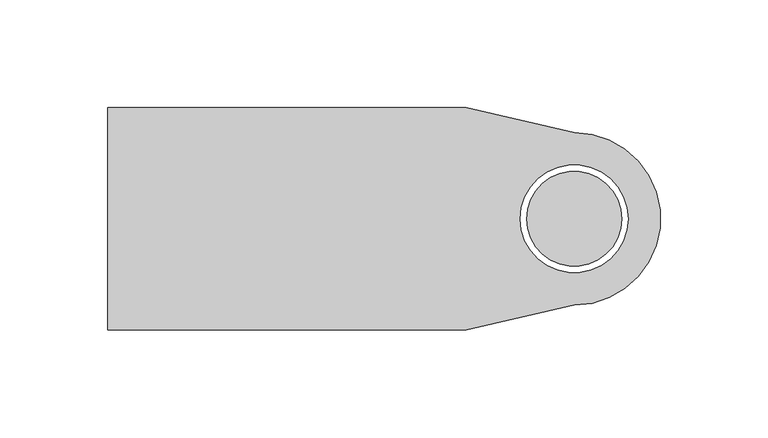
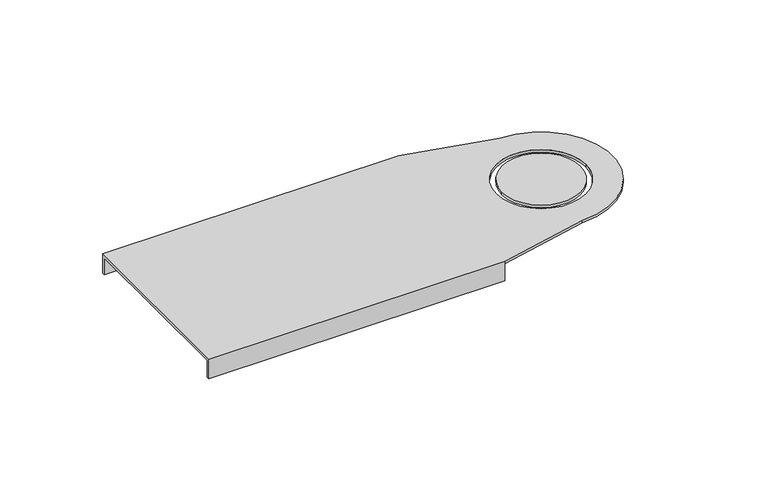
"""IFC4 building model written with IfcOpenShell, lengths in millimetres: cable carrier fitting geometry, BAKS_LDLS_BEND_Articulated connector for LLDS_LGSU : LGSUP_H100."""

from ifc_helpers import new_model, si_unit, frame, origin, place, context, project, spatial, polyline, circle_curve, source, transform, mapped, element, save
from ifc_brep_helpers import plane_surface, cylinder_surface, revolved_surface, advanced_brep


def cable_carrier_fitting_4c2027fa(model_context):
    return source(origin(), model_context, "Body", "AdvancedBrep", [
        advanced_brep(
        [(-216.0, 51.5, 1.5), (-216.0, -51.5, 1.5), (-50.0, -51.5, 1.5), (0.0, -40.0, 1.5), (0.0, 40.0, 1.5), (-50.0, 51.5, 1.5), (25.0, 0.0, 1.5), (-25.0, 0.0, 1.5), (-50.0, -51.5, 0.0), (-50.0, -50.0, 0.0), (-216.0, -50.0, 0.0), (-216.0, 50.0, 0.0), (-50.0, 50.0, 0.0), (-50.0, 51.5, 0.0), (0.0, 40.0, 0.0), (0.0, -40.0, 0.0), (-25.0, 0.0, 0.0), (25.0, 0.0, 0.0), (-50.0, 51.5, -10.0), (-216.0, 51.5, -10.0), (-216.0, -51.5, -10.0), (-50.0, -51.5, -10.0), (-216.0, 50.0, -10.0), (-216.0, -50.0, -10.0), (-50.0, -50.0, -10.0), (-50.0, 50.0, -10.0)],
        [
            (0, 1),
            (1, 2),
            (2, 3),
            (3, 4, circle_curve(frame((0.0, 0.0, 1.5), z_axis=(0.0, 0.0, 1.0), x_axis=(-1.0, 0.0, 0.0)), 40.0)),
            (4, 5),
            (5, 0),
            (6, 7, circle_curve(frame((0.0, 0.0, 1.5), z_axis=(0.0, 0.0, -1.0), x_axis=(-1.0, 0.0, 0.0)), 25.0)),
            (7, 6, circle_curve(frame((0.0, 0.0, 1.5), z_axis=(0.0, 0.0, -1.0), x_axis=(-1.0, 0.0, 0.0)), 25.0)),
            (8, 9),
            (9, 10),
            (10, 11),
            (11, 12),
            (12, 13),
            (13, 14),
            (14, 15, circle_curve(frame((0.0, 0.0, 0.0), z_axis=(0.0, 0.0, -1.0), x_axis=(-1.0, 0.0, 0.0)), 40.0)),
            (15, 8),
            (16, 17, circle_curve(frame((0.0, 0.0, 0.0), z_axis=(0.0, 0.0, 1.0), x_axis=(-1.0, 0.0, 0.0)), 25.0)),
            (17, 16, circle_curve(frame((0.0, 0.0, 0.0), z_axis=(0.0, 0.0, 1.0), x_axis=(-1.0, 0.0, 0.0)), 25.0)),
            (5, 13),
            (13, 18),
            (18, 19),
            (19, 0),
            (1, 20),
            (20, 21),
            (21, 8),
            (8, 2),
            (19, 22),
            (22, 11),
            (10, 23),
            (23, 20),
            (7, 16),
            (17, 6),
            (4, 14),
            (3, 15),
            (23, 24),
            (24, 21),
            (9, 24),
            (18, 25),
            (25, 22),
            (12, 25),
        ],
        [
            plane_surface(frame((-50.0, 51.5, 1.5), z_axis=(0.0, 0.0, 1.0), x_axis=(1.0, 0.0, 0.0))),
            plane_surface(frame((-50.0, 51.5, 0.0), z_axis=(0.0, 0.0, -1.0), x_axis=(-1.0, 0.0, 0.0))),
            plane_surface(frame((-216.0, 51.5, 1.5), z_axis=(0.0, 1.0, 0.0), x_axis=(0.0, 0.0, -1.0))),
            plane_surface(frame((-50.0, -51.5, 1.5), z_axis=(0.0, -1.0, 0.0), x_axis=(0.0, 0.0, -1.0))),
            plane_surface(frame((-216.0, -51.5, 1.5), z_axis=(-1.0, 0.0, 0.0), x_axis=(0.0, 0.0, -1.0))),
            revolved_surface(polyline([(-25.0, 0.0, 1.5), (-25.0, 0.0, 0.0)]), (0.0, 0.0, 0.0), (0.0, 0.0, 1.0)),
            plane_surface(frame((-50.0, 51.5, 1.5), z_axis=(0.22414769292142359, 0.9745551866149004, 0.0), x_axis=(0.0, 0.0, -1.0))),
            cylinder_surface(frame((0.0, 0.0, 0.0), z_axis=(0.0, 0.0, 1.0), x_axis=(-1.0, 0.0, 0.0)), 40.0),
            plane_surface(frame((0.0, -40.0, 1.5), z_axis=(0.2241476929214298, -0.9745551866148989, 0.0), x_axis=(0.0, 0.0, -1.0))),
            plane_surface(frame((-50.0, -50.0, -10.0), z_axis=(0.0, 0.0, -1.0), x_axis=(-1.0, 0.0, 0.0))),
            plane_surface(frame((-216.0, -50.0, 0.0), z_axis=(0.0, 1.0, 0.0), x_axis=(0.0, 0.0, -1.0))),
            plane_surface(frame((-50.0, -50.0, 0.0), z_axis=(1.0, 0.0, 0.0), x_axis=(0.0, 0.0, -1.0))),
            plane_surface(frame((-50.0, 51.5, -10.0), z_axis=(0.0, 0.0, -1.0), x_axis=(-1.0, 0.0, 0.0))),
            plane_surface(frame((-50.0, 51.5, 0.0), z_axis=(1.0, 0.0, 0.0), x_axis=(0.0, 0.0, -1.0))),
            plane_surface(frame((-50.0, 50.0, 0.0), z_axis=(0.0, -1.0, 0.0), x_axis=(0.0, 0.0, -1.0))),
        ],
        [
            (0, [[1, 2, 3, 4, 5, 6], [7, 8]]),
            (1, [[9, 10, 11, 12, 13, 14, 15, 16], [17, 18]]),
            (2, [[19, 20, 21, 22, -6]]),
            (3, [[23, 24, 25, 26, -2]]),
            (4, [[27, 28, -11, 29, 30, -23, -1, -22]]),
            (5, [[-8, 31, -18, 32]]),
            (5, [[-17, -31, -7, -32]]),
            (6, [[33, -14, -19, -5]]),
            (7, [[34, -15, -33, -4]]),
            (8, [[-26, -16, -34, -3]]),
            (9, [[35, 36, -24, -30]]),
            (10, [[-29, -10, 37, -35]]),
            (11, [[-37, -9, -25, -36]]),
            (12, [[-21, 38, 39, -27]]),
            (13, [[-20, -13, 40, -38]]),
            (14, [[-40, -12, -28, -39]]),
        ],
    ),
        advanced_brep(
        [(22.0, 0.0, 1.5), (-22.0, 0.0, 1.5), (-22.0, 0.0, 0.0), (22.0, 0.0, 0.0)],
        [
            (0, 1, circle_curve(frame((0.0, 0.0, 1.5), z_axis=(0.0, 0.0, 1.0), x_axis=(-1.0, 0.0, 0.0)), 22.0)),
            (1, 0, circle_curve(frame((0.0, 0.0, 1.5), z_axis=(0.0, 0.0, 1.0), x_axis=(-1.0, 0.0, 0.0)), 22.0)),
            (2, 3, circle_curve(frame((0.0, 0.0, 0.0), z_axis=(0.0, 0.0, -1.0), x_axis=(-1.0, 0.0, 0.0)), 22.0)),
            (3, 2, circle_curve(frame((0.0, 0.0, 0.0), z_axis=(0.0, 0.0, -1.0), x_axis=(-1.0, 0.0, 0.0)), 22.0)),
            (1, 2),
            (3, 0),
        ],
        [
            plane_surface(frame((-50.0, 51.5, 1.5), z_axis=(0.0, 0.0, 1.0), x_axis=(1.0, 0.0, 0.0))),
            plane_surface(frame((-50.0, 51.5, 0.0), z_axis=(0.0, 0.0, -1.0), x_axis=(-1.0, 0.0, 0.0))),
            cylinder_surface(frame((0.0, 0.0, 0.0), z_axis=(0.0, 0.0, -1.0), x_axis=(-1.0, 0.0, 0.0)), 22.0),
        ],
        [
            (0, [[1, 2]]),
            (1, [[3, 4]]),
            (2, [[-2, 5, -4, 6]]),
            (2, [[-3, -5, -1, -6]]),
        ],
    ),
    ])


if __name__ == "__main__":
    model = new_model("IFC4")
    model_context = context("Model", 3, world=origin())
    ifc_project = project(units=[si_unit("LENGTHUNIT", "METRE", prefix="MILLI")], contexts=[model_context])
    site = spatial("IfcSite", under=ifc_project)
    building = spatial("IfcBuilding", under=site)
    placement = place(None, origin())
    cable_carrier_fitting_shape = cable_carrier_fitting_4c2027fa(model_context)
    element("IfcCableCarrierFitting", 1, ObjectType="BAKS_LDLS_BEND_Articulated connector for LLDS_LGSU : LGSUP_H100", at=placement, inside=building, context=model_context, shape_type="MappedRepresentation", body=[
        mapped(cable_carrier_fitting_shape, transform((0.0, 0.0, 0.0), x_axis=(1.0, 0.0, 0.0), y_axis=(0.0, 1.0, 0.0), z_axis=(0.0, 0.0, 1.0))),
    ])
    save(model, "model.ifc")
